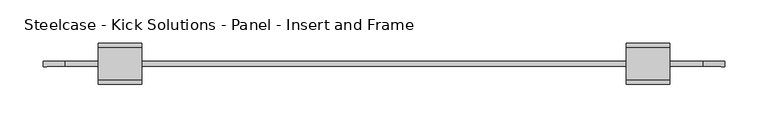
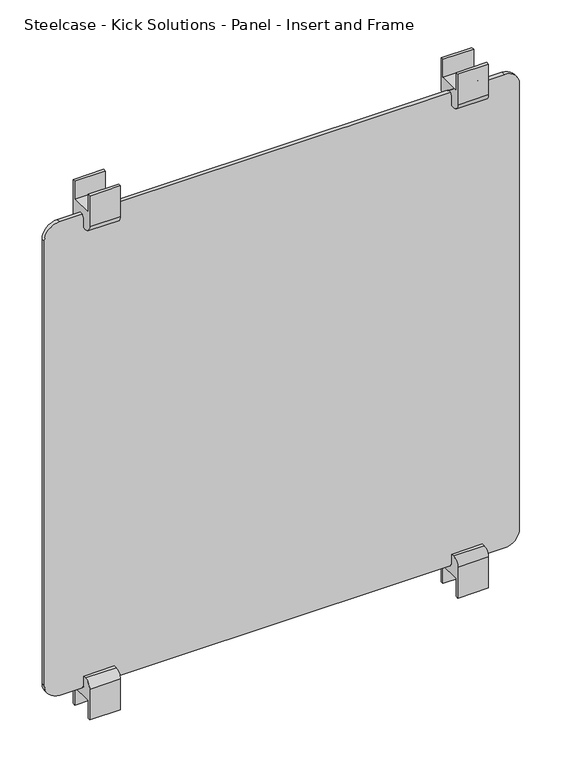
"""IFC4 building model written with IfcOpenShell, lengths in millimetres: furniture geometry, Steelcase - Kick Solutions - Panel - Insert and Frame : Laminate - 42H x 36W."""

from ifc_helpers import new_model, si_unit, point, frame, frame_2d, origin, place, context, project, spatial, polyline, circle_curve, trimmed, segment, composite_curve, outline, extrude, source, transform, mapped, element, save


def steelcase_kick_solutions_panel_insert_and_frame_17293726(model_context):
    return source(origin(), model_context, "Body", "SweptSolid", [
        extrude(outline(composite_curve([segment(polyline([(5.3821989, 1041.4), (10.144699, 1041.4), (10.144699, 986.713221)]), True, "CONTINUOUS"), segment(trimmed(circle_curve(frame_2d((-1.6831687, 986.713221)), 11.8278677), [point((10.144699, 986.713221))], [point((-1.6831687, 974.8853533))], False, "CARTESIAN"), True, "CONTINUOUS"), segment(polyline([(-1.6831687, 974.8853533), (-7.3178012, 974.8853533), (-7.3178012, 990.2857521)]), True, "CONTINUOUS"), segment(trimmed(circle_curve(frame_2d((-13.667801, 990.2857521)), 6.3499998), [point((-7.3178012, 990.2857521))], [point((-20.0178007, 990.2857521))], True, "CARTESIAN"), True, "CONTINUOUS"), segment(polyline([(-20.0178007, 990.2857521), (-20.0178007, 974.8853527), (-25.2074988, 974.8853527)]), True, "CONTINUOUS"), segment(trimmed(circle_curve(frame_2d((-25.2074988, 987.1581549)), 12.2728022), [point((-25.2074988, 974.8853527))], [point((-37.480301, 987.1581549))], False, "CARTESIAN"), True, "CONTINUOUS"), segment(polyline([(-37.480301, 987.1581549), (-37.480301, 1041.4), (-32.7177988, 1041.4), (-32.7177988, 1009.6499758), (5.3821989, 1009.6499758), (5.3821989, 1041.4)]), True, "CONTINUOUS")], self_intersect=False)), frame((737.5148583, 0.0, 0.0), z_axis=(1.0, 0.0, 0.0), x_axis=(0.0, 1.0, 0.0)), (0.0, 0.0, 1.0), 50.8),
        extrude(outline(composite_curve([segment(polyline([(5.3821989, 120.6499576), (5.3821989, 152.3999815), (-32.7177988, 152.3999815), (-32.7177988, 120.6499576), (-37.480301, 120.6499576), (-37.480301, 174.8918024)]), True, "CONTINUOUS"), segment(trimmed(circle_curve(frame_2d((-25.2074988, 174.8918024)), 12.2728022), [point((-37.480301, 174.8918024))], [point((-25.2074988, 187.1646046))], False, "CARTESIAN"), True, "CONTINUOUS"), segment(polyline([(-25.2074988, 187.1646046), (-20.0178007, 187.1646046), (-20.0178007, 171.7642058)]), True, "CONTINUOUS"), segment(trimmed(circle_curve(frame_2d((-13.667801, 171.7642058)), 6.3499998), [point((-20.0178007, 171.7642058))], [point((-7.3178012, 171.7642058))], True, "CARTESIAN"), True, "CONTINUOUS"), segment(polyline([(-7.3178012, 171.7642058), (-7.3178012, 187.1646046), (-1.6831687, 187.1646046)]), True, "CONTINUOUS"), segment(trimmed(circle_curve(frame_2d((-1.6831687, 175.3367369)), 11.8278677), [point((-1.6831687, 187.1646046))], [point((10.144699, 175.3367369))], False, "CARTESIAN"), True, "CONTINUOUS"), segment(polyline([(10.144699, 175.3367369), (10.144699, 120.6499576), (5.3821989, 120.6499576)]), True, "CONTINUOUS")], self_intersect=False)), frame((737.5148583, 0.0, 0.0), z_axis=(1.0, 0.0, 0.0), x_axis=(0.0, 1.0, 0.0)), (0.0, 0.0, 1.0), 50.8),
        extrude(outline(composite_curve([segment(polyline([(5.3821989, 1041.4), (10.144699, 1041.4), (10.144699, 986.7132204)]), True, "CONTINUOUS"), segment(trimmed(circle_curve(frame_2d((-1.6831684, 986.7132204)), 11.8278674), [point((10.144699, 986.7132204))], [point((-1.6831684, 974.885353))], False, "CARTESIAN"), True, "CONTINUOUS"), segment(polyline([(-1.6831684, 974.885353), (-7.3178009, 974.885353), (-7.3178009, 990.2857521)]), True, "CONTINUOUS"), segment(trimmed(circle_curve(frame_2d((-13.667801, 990.2857521)), 6.3500001), [point((-7.3178009, 990.2857521))], [point((-20.017801, 990.2857521))], True, "CARTESIAN"), True, "CONTINUOUS"), segment(polyline([(-20.017801, 990.2857521), (-20.017801, 974.885353), (-25.2074991, 974.885353)]), True, "CONTINUOUS"), segment(trimmed(circle_curve(frame_2d((-25.2074991, 987.1581549)), 12.2728019), [point((-25.2074991, 974.885353))], [point((-37.480301, 987.1581549))], False, "CARTESIAN"), True, "CONTINUOUS"), segment(polyline([(-37.480301, 987.1581549), (-37.480301, 1041.4), (-32.7177988, 1041.4), (-32.7177988, 1009.6499758), (5.3821989, 1009.6499758), (5.3821989, 1041.4)]), True, "CONTINUOUS")], self_intersect=False)), frame((126.0851417, 0.0, 0.0), z_axis=(1.0, 0.0, 0.0), x_axis=(0.0, 1.0, 0.0)), (0.0, 0.0, 1.0), 50.8),
        extrude(outline(composite_curve([segment(polyline([(5.3821989, 120.6499576), (5.3821989, 152.3999818), (-32.7177988, 152.3999818), (-32.7177988, 120.6499576), (-37.480301, 120.6499576), (-37.480301, 174.8918027)]), True, "CONTINUOUS"), segment(trimmed(circle_curve(frame_2d((-25.2074991, 174.8918027)), 12.2728019), [point((-37.480301, 174.8918027))], [point((-25.2074991, 187.1646046))], False, "CARTESIAN"), True, "CONTINUOUS"), segment(polyline([(-25.2074991, 187.1646046), (-20.017801, 187.1646046), (-20.017801, 171.7642055)]), True, "CONTINUOUS"), segment(trimmed(circle_curve(frame_2d((-13.667801, 171.7642055)), 6.3500001), [point((-20.017801, 171.7642055))], [point((-7.3178009, 171.7642055))], True, "CARTESIAN"), True, "CONTINUOUS"), segment(polyline([(-7.3178009, 171.7642055), (-7.3178009, 187.1646041), (-1.6831684, 187.1646041)]), True, "CONTINUOUS"), segment(trimmed(circle_curve(frame_2d((-1.6831684, 175.3367366)), 11.8278674), [point((-1.6831684, 187.1646041))], [point((10.144699, 175.3367366))], False, "CARTESIAN"), True, "CONTINUOUS"), segment(polyline([(10.144699, 175.3367366), (10.144699, 120.6499576), (5.3821989, 120.6499576)]), True, "CONTINUOUS")], self_intersect=False)), frame((126.0851417, 0.0, 0.0), z_axis=(1.0, 0.0, 0.0), x_axis=(0.0, 1.0, 0.0)), (0.0, 0.0, 1.0), 50.8),
        extrude(outline(composite_curve([segment(polyline([(996.9499516, 826.4148583), (996.9499516, 87.9851417)]), True, "CONTINUOUS"), segment(trimmed(circle_curve(frame_2d((971.5499516, 87.9851417)), 25.4), [point((996.9499516, 87.9851417))], [point((971.5499516, 62.5851417))], False, "CARTESIAN"), True, "CONTINUOUS"), segment(polyline([(971.5499516, 62.5851417), (190.5000061, 62.5851417)]), True, "CONTINUOUS"), segment(trimmed(circle_curve(frame_2d((190.5000061, 87.9851417)), 25.4), [point((190.5000061, 62.5851417))], [point((165.1000061, 87.9851417))], False, "CARTESIAN"), True, "CONTINUOUS"), segment(polyline([(165.1000061, 87.9851417), (165.1000061, 826.4148583)]), True, "CONTINUOUS"), segment(trimmed(circle_curve(frame_2d((190.5000061, 826.4148583)), 25.4), [point((165.1000061, 826.4148583))], [point((190.5000061, 851.8148583))], False, "CARTESIAN"), True, "CONTINUOUS"), segment(polyline([(190.5000061, 851.8148583), (971.5499516, 851.8148583)]), True, "CONTINUOUS"), segment(trimmed(circle_curve(frame_2d((971.5499516, 826.4148583)), 25.4), [point((971.5499516, 851.8148583))], [point((996.9499516, 826.4148583))], False, "CARTESIAN"), True, "CONTINUOUS")], self_intersect=False)), frame((0.0, -16.8428004, 0.0), z_axis=(0.0, 1.0, 0.0), x_axis=(0.0, 0.0, 1.0)), (0.0, 0.0, 1.0), 6.3499985),
    ])


if __name__ == "__main__":
    model = new_model("IFC4")
    model_context = context("Model", 3, world=origin())
    ifc_project = project(units=[si_unit("LENGTHUNIT", "METRE", prefix="MILLI")], contexts=[model_context])
    site = spatial("IfcSite", under=ifc_project)
    building = spatial("IfcBuilding", under=site)
    placement = place(None, origin())
    steelcase_kick_solutions_panel_insert_and_frame_shape = steelcase_kick_solutions_panel_insert_and_frame_17293726(model_context)
    element("IfcFurniture", 1, ObjectType="Steelcase - Kick Solutions - Panel - Insert and Frame : Laminate - 42H x 36W", at=placement, inside=building, context=model_context, shape_type="MappedRepresentation", body=[
        mapped(steelcase_kick_solutions_panel_insert_and_frame_shape, transform((0.0, 0.0, 0.0), x_axis=(1.0, 0.0, 0.0), y_axis=(0.0, 1.0, 0.0), z_axis=(0.0, 0.0, 1.0))),
    ])
    save(model, "model.ifc")
